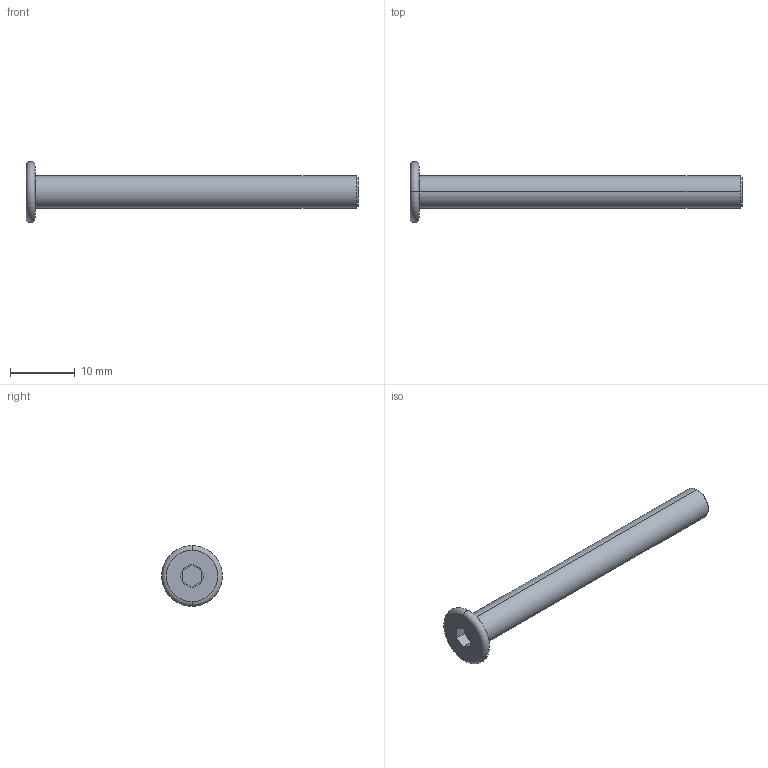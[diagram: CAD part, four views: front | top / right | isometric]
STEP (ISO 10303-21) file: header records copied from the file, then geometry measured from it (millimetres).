
FILE_DESCRIPTION (( 'STEP AP203' ), '1' );
FILE_NAME ('LGD-304M-M5x50.STEP', '2026-08-13T12:28:38', ( '' ), ( '' ), 'SwSTEP 2.0', 'SolidWorks 2020', '' );
FILE_SCHEMA (( 'CONFIG_CONTROL_DESIGN' ));
Length unit declared in the file: millimetre
Products named in the file (1): LGD-304M-M5x50
Bounding box: 51.4 x 9.4 x 9.4 mm (x, y, z)
Volume: 1059 mm3; surface area: 961.1 mm2
Topology: 1 solids, 1 shells, 24 faces, 44 edges, 24 vertices
Faces by surface type: plane 10, cone 8, torus 4, cylinder 2
Entity records: 673 total; most frequent: CARTESIAN_POINT 119, DIRECTION 110, ORIENTED_EDGE 88, AXIS2_PLACEMENT_3D 47, EDGE_CURVE 44, EDGE_LOOP 26, VERTEX_POINT 24, ADVANCED_FACE 24
